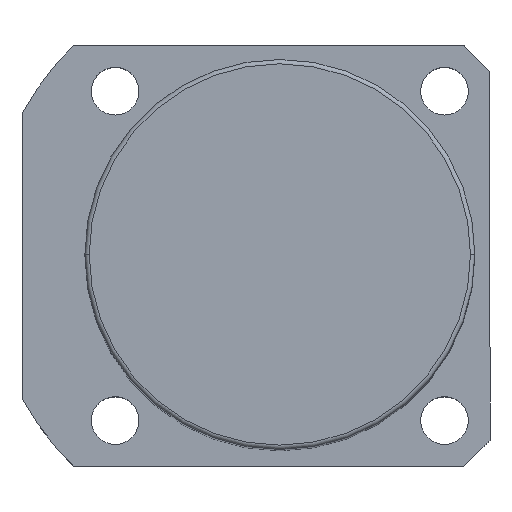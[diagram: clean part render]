
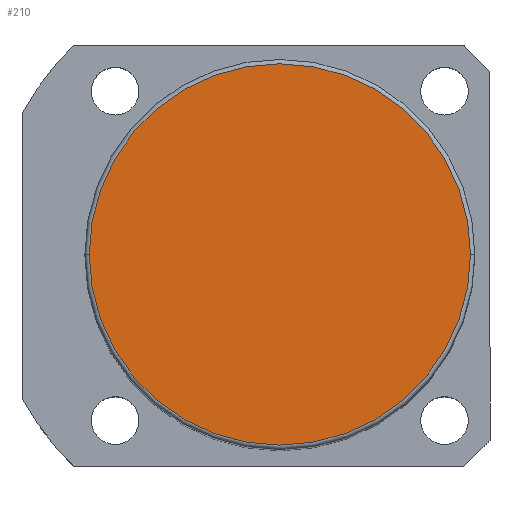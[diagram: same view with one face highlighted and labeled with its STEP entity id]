
A CAD part, top view. The second image highlights one B-rep face of the part: STEP entity #210.
In plain terms, the highlighted planar face has unit normal (0, 0, 1).
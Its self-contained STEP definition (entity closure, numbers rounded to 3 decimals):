
#127 = CIRCLE ( 'NONE', #429, 44. ) ;
#161 = PLANE ( 'NONE',  #356 ) ;
#169 = DIRECTION ( 'NONE',  ( 0., 0., 1. ) ) ;
#210 = ADVANCED_FACE ( 'NONE', ( #305 ), #161, .T. ) ;
#254 = CIRCLE ( 'NONE', #494, 44. ) ;
#305 = FACE_OUTER_BOUND ( 'NONE', #458, .T. ) ;
#356 = AXIS2_PLACEMENT_3D ( 'NONE', #1860, #169, #669 ) ;
#429 = AXIS2_PLACEMENT_3D ( 'NONE', #665, #1686, #2024 ) ;
#458 = EDGE_LOOP ( 'NONE', ( #1165, #1544 ) ) ;
#494 = AXIS2_PLACEMENT_3D ( 'NONE', #641, #1872, #1251 ) ;
#622 = CARTESIAN_POINT ( 'NONE',  ( -44., 0., 201.5 ) ) ;
#641 = CARTESIAN_POINT ( 'NONE',  ( 0., 0., 201.5 ) ) ;
#665 = CARTESIAN_POINT ( 'NONE',  ( 0., 0., 201.5 ) ) ;
#669 = DIRECTION ( 'NONE',  ( 1., 0., 0. ) ) ;
#859 = CARTESIAN_POINT ( 'NONE',  ( 44., 0., 201.5 ) ) ;
#897 = VERTEX_POINT ( 'NONE', #859 ) ;
#1165 = ORIENTED_EDGE ( 'NONE', *, *, #1392, .T. ) ;
#1251 = DIRECTION ( 'NONE',  ( 1., 0., 0. ) ) ;
#1392 = EDGE_CURVE ( 'NONE', #897, #2207, #127, .T. ) ;
#1544 = ORIENTED_EDGE ( 'NONE', *, *, #1939, .T. ) ;
#1686 = DIRECTION ( 'NONE',  ( 0., 0., 1. ) ) ;
#1860 = CARTESIAN_POINT ( 'NONE',  ( 0., 0., 201.5 ) ) ;
#1872 = DIRECTION ( 'NONE',  ( 0., 0., 1. ) ) ;
#1939 = EDGE_CURVE ( 'NONE', #2207, #897, #254, .T. ) ;
#2024 = DIRECTION ( 'NONE',  ( 1., 0., 0. ) ) ;
#2207 = VERTEX_POINT ( 'NONE', #622 ) ;
